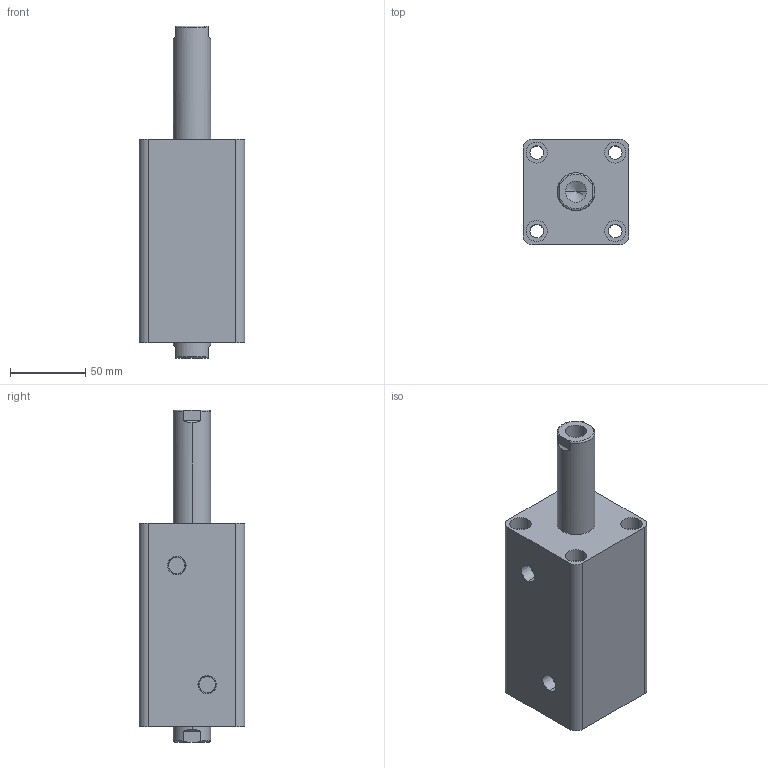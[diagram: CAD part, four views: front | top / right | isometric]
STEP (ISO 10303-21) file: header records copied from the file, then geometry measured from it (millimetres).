
FILE_DESCRIPTION (( 'STEP AP203' ), '1' );
FILE_NAME ('HTB-SW40-65N.STEP', '2019-10-07T09:10:02', ( '微软用户' ), ( '微软中国' ), 'SwSTEP 2.0', 'SolidWorks 2012', '' );
FILE_SCHEMA (( 'CONFIG_CONTROL_DESIGN' ));
Length unit declared in the file: millimetre
Products named in the file (3): HTB-SW40-65N; HTB-SW40-65N活塞杆; HTB-SW40-65掛极
Assembly tree (2 placements, depth 2):
  HTB-SW40-65N
    HTB-SW40-65掛极
    HTB-SW40-65N活塞杆
Bounding box: 70 x 70 x 220 mm (x, y, z)
Volume: 600037.1 mm3; surface area: 99750.3 mm2
Topology: 2 solids, 2 shells, 100 faces, 228 edges, 146 vertices
Faces by surface type: cylinder 48, plane 32, torus 12, cone 8
Entity records: 3237 total; most frequent: CARTESIAN_POINT 595, DIRECTION 542, ORIENTED_EDGE 448, AXIS2_PLACEMENT_3D 229, EDGE_CURVE 224, VERTEX_POINT 146, EDGE_LOOP 128, CIRCLE 124
